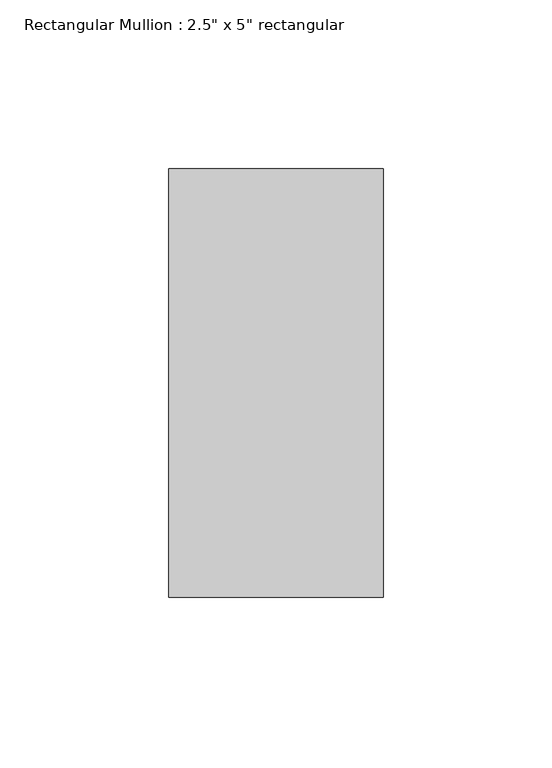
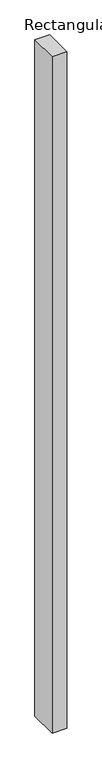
"""IFC4 building model written with IfcOpenShell, lengths in millimetres: member geometry."""

from ifc_helpers import new_model, si_unit, frame, origin, place, context, project, spatial, polyline, outline, extrude, source, transform, mapped, element, save


def member_eaba9652(model_context):
    return source(origin(), model_context, "Body", "SweptSolid", [
        extrude(outline(polyline([(31.75, 63.5), (31.75, -63.5), (-31.75, -63.5), (-31.75, 63.5), (31.75, 63.5)])), frame((0.0, 0.0, -3048.0), z_axis=(0.0, 0.0, 1.0), x_axis=(1.0, 0.0, 0.0)), (0.0, 0.0, 1.0), 3048.0),
    ])


if __name__ == "__main__":
    model = new_model("IFC4")
    model_context = context("Model", 3, world=origin())
    ifc_project = project(units=[si_unit("LENGTHUNIT", "METRE", prefix="MILLI")], contexts=[model_context])
    site = spatial("IfcSite", under=ifc_project)
    building = spatial("IfcBuilding", under=site)
    placement = place(None, origin())
    member_shape = member_eaba9652(model_context)
    element("IfcMember", 1, ObjectType="Rectangular Mullion : 2.5\" x 5\" rectangular", at=placement, inside=building, context=model_context, shape_type="MappedRepresentation", body=[
        mapped(member_shape, transform((0.0, 0.0, 0.0), x_axis=(1.0, 0.0, 0.0), y_axis=(0.0, 1.0, 0.0), z_axis=(0.0, 0.0, 1.0))),
    ])
    save(model, "model.ifc")
